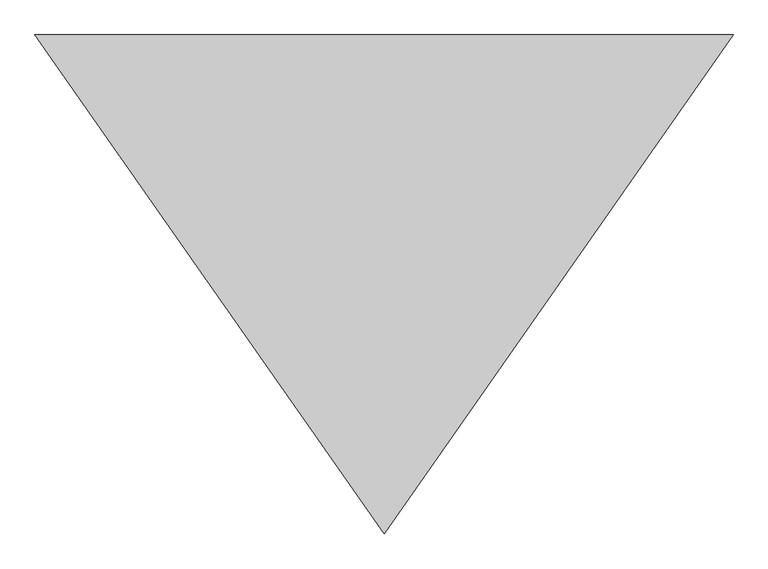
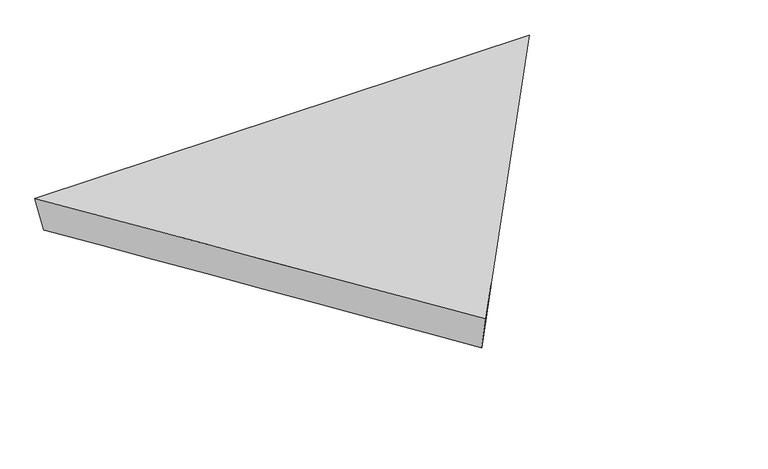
"""IFC4 building model written with IfcOpenShell, lengths in millimetres: plate geometry."""

from ifc_helpers import new_model, si_unit, frame, origin, place, context, project, spatial, source, transform, mapped, element, save
from ifc_brep_helpers import plane_surface, spline_surface, advanced_brep


def plate_5c3bb31e(model_context):
    return source(origin(), model_context, "Body", "AdvancedBrep", [
        advanced_brep(
        [(6096.0, 3780.8754087, 0.0), (7452.4087631, 5729.5622956, 0.0), (7496.8614846, 5740.5230694, 197.9748898), (6096.0, 3738.3549057, 198.7014012), (4739.5912369, 5729.5622956, 0.0), (4695.1385154, 5740.5230694, 197.9748898)],
        [
            (0, 1),
            (1, 2),
            (2, 3),
            (3, 0),
            (1, 4),
            (4, 5),
            (5, 2),
            (4, 0),
            (3, 5),
        ],
        [
            spline_surface(1, 1, [[(6096.0, 3780.8754087, 0.0), (6096.0, 3738.3549057, 198.7014012)], [(7452.4087631, 5729.5622956, 0.0), (7496.8614846, 5740.5230694, 197.9748898)]], [2, 2], [2, 2], [0.0, 1.0], [0.0, 1.0]),
            plane_surface(frame((6096.0, 5729.5622956, 0.0), z_axis=(0.0, 0.9984709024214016, -0.05527980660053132), x_axis=(-1.0, 0.0, 0.0))),
            spline_surface(1, 1, [[(4739.5912369, 5729.5622956, 0.0), (4695.1385154, 5740.5230694, 197.9748898)], [(6096.0, 3780.8754087, 0.0), (6096.0, 3738.3549057, 198.7014012)]], [2, 2], [2, 2], [0.0, 1.0], [0.0, 1.0]),
            plane_surface(frame((6096.0, 5073.1336815, 198.2170602), z_axis=(0.0, 0.00036286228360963, 0.9999999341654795), x_axis=(0.5732820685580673, -0.8193580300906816, 0.0002973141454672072))),
            plane_surface(frame((6096.0, 5080.0, 0.0), z_axis=(0.0, 0.0, -1.0), x_axis=(-0.5712916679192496, 0.8207471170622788, 0.0))),
        ],
        [
            (0, [[1, 2, 3, 4]]),
            (1, [[5, 6, 7, -2]]),
            (2, [[8, -4, 9, -6]]),
            (3, [[-9, -3, -7]]),
            (4, [[-8, -5, -1]]),
        ],
    ),
    ])


if __name__ == "__main__":
    model = new_model("IFC4")
    model_context = context("Model", 3, world=origin())
    ifc_project = project(units=[si_unit("LENGTHUNIT", "METRE", prefix="MILLI")], contexts=[model_context])
    site = spatial("IfcSite", under=ifc_project)
    building = spatial("IfcBuilding", under=site)
    placement = place(None, origin())
    plate_shape = plate_5c3bb31e(model_context)
    element("IfcPlate", 1, ObjectType="tn_cpanel_patbase_triangle_flat_seamless_solid_01 : tn_cpanel_pattern_mullion_h8\"", at=placement, inside=building, context=model_context, shape_type="MappedRepresentation", body=[
        mapped(plate_shape, transform((0.0, 0.0, 0.0), x_axis=(1.0, 0.0, 0.0), y_axis=(0.0, 1.0, 0.0), z_axis=(0.0, 0.0, 1.0))),
    ])
    save(model, "model.ifc")
